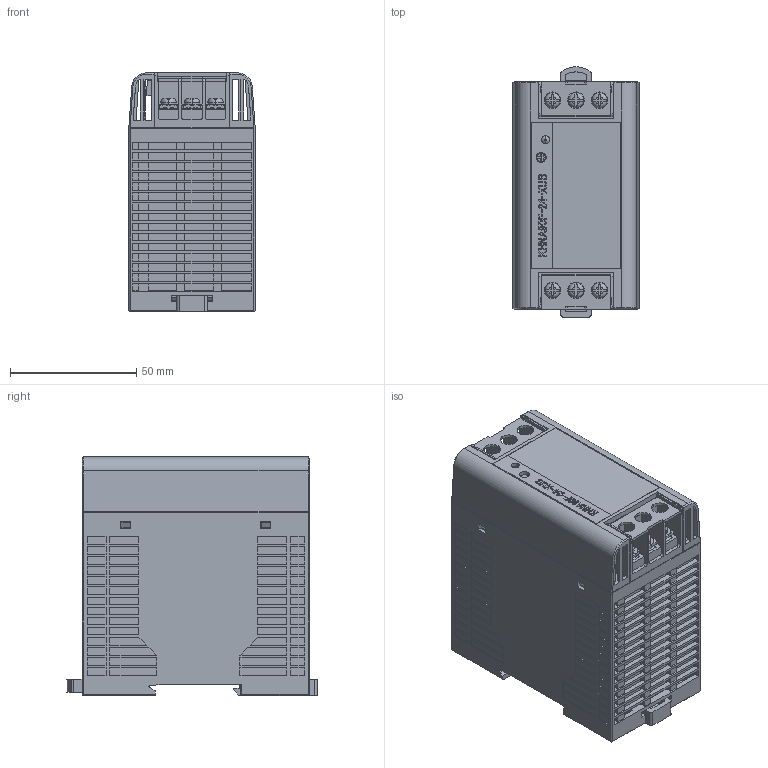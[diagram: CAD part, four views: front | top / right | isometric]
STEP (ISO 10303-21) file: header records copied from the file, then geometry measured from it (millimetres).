
FILE_DESCRIPTION(('CoCreate Modeling STEP Export'),'2;1');
FILE_NAME('khna90f-xub.stp','2015-02-03T11:33:52',(''),(''),'CoCreate Modeling STEP processor for AP214 (Solid Model)','CoCreate Modeling 17.0 01-Apr-2010 (C) Parametric Technology GmbH','');
FILE_SCHEMA(('AUTOMOTIVE_DESIGN { 1 0 10303 214 1 1 1 1 }'));
Products named in the file (1): khna90f-xub
Bounding box: 50 x 98.96 x 94.69 mm (x, y, z)
Volume: 318057.1 mm3; surface area: 90653.6 mm2
Topology: 1 solids, 1 shells, 3005 faces, 9289 edges, 6056 vertices
Faces by surface type: plane 2605, cylinder 338, torus 34, cone 28
Entity records: 121782 total; most frequent: CARTESIAN_POINT 18778, ORIENTED_EDGE 18586, DIRECTION 14817, EDGE_CURVE 9289, VECTOR 8059, LINE 8059, VERTEX_POINT 6056, AXIS2_PLACEMENT_3D 3379
